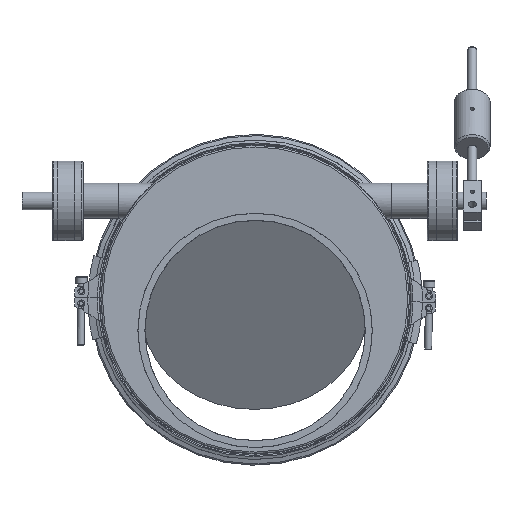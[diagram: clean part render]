
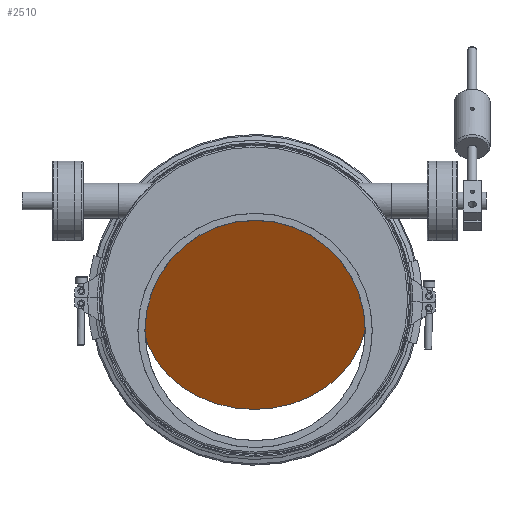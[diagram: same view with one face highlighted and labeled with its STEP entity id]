
A CAD part, top view. The second image highlights one B-rep face of the part: STEP entity #2510.
In plain terms, the highlighted planar face has unit normal (0, -0.511, 0.86) as drawn and (0, -1, 0) by its records, which use the part's own axes.
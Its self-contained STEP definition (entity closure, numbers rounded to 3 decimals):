
#2454=CARTESIAN_POINT('',(144.,-4.,390.0));
#2455=VERTEX_POINT('',#2454);
#2462=CARTESIAN_POINT('',(144.,-4.,135.0));
#2463=VERTEX_POINT('',#2462);
#2464=CARTESIAN_POINT('',(144.,-4.,262.5));
#2465=DIRECTION('',(0.0,1.,0.0));
#2466=DIRECTION('',(0.707,0.0,0.707));
#2467=AXIS2_PLACEMENT_3D('',#2464,#2465,#2466);
#2468=CIRCLE('',#2467,127.5);
#2469=EDGE_CURVE('',#2455,#2463,#2468,.T.);
#2480=CARTESIAN_POINT('',(0.0,-4.,135.0));
#2481=DIRECTION('',(0.0,-1.0,0.0));
#2482=DIRECTION('',(0.0,0.0,-1.0));
#2483=AXIS2_PLACEMENT_3D('',#2480,#2481,#2482);
#2484=PLANE('',#2483);
#2485=ORIENTED_EDGE('',*,*,#2469,.F.);
#2486=CARTESIAN_POINT('',(9.165,-4.,390.0));
#2487=VERTEX_POINT('',#2486);
#2488=CARTESIAN_POINT('',(9.165,-4.,390.0));
#2489=DIRECTION('',(1.0,0.0,0.0));
#2490=VECTOR('',#2489,134.835);
#2491=LINE('',#2488,#2490);
#2492=EDGE_CURVE('',#2487,#2455,#2491,.T.);
#2493=ORIENTED_EDGE('',*,*,#2492,.F.);
#2494=CARTESIAN_POINT('',(9.165,-4.,135.0));
#2495=VERTEX_POINT('',#2494);
#2496=CARTESIAN_POINT('',(9.165,-4.,135.0));
#2497=DIRECTION('',(0.0,0.0,1.0));
#2498=VECTOR('',#2497,255.0);
#2499=LINE('',#2496,#2498);
#2500=EDGE_CURVE('',#2495,#2487,#2499,.T.);
#2501=ORIENTED_EDGE('',*,*,#2500,.F.);
#2502=CARTESIAN_POINT('',(9.165,-4.,135.0));
#2503=DIRECTION('',(1.0,0.0,0.0));
#2504=VECTOR('',#2503,134.835);
#2505=LINE('',#2502,#2504);
#2506=EDGE_CURVE('',#2495,#2463,#2505,.T.);
#2507=ORIENTED_EDGE('',*,*,#2506,.T.);
#2508=EDGE_LOOP('',(#2485,#2493,#2501,#2507));
#2509=FACE_OUTER_BOUND('',#2508,.T.);
#2510=ADVANCED_FACE('',(#2509),#2484,.T.);
